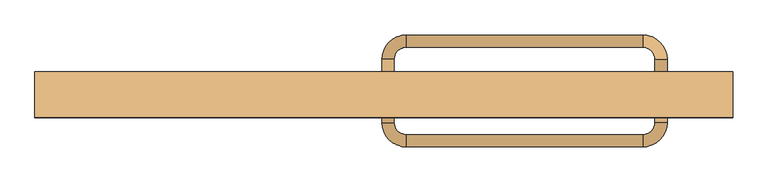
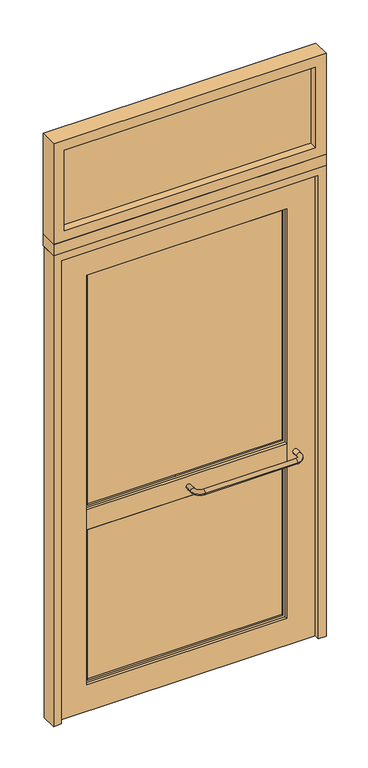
"""IFC4 building model written with IfcOpenShell, lengths in millimetres: door geometry, A3 Puerta batiente exterior VF superior : A3.3 Puerta batiente simple-exterior 115X260."""

from ifc_helpers import new_model, si_unit, point, frame, origin, place, context, project, spatial, polyline, circle_curve, ellipse_curve, trimmed, outline, extrude, source, transform, mapped, element, save
from ifc_brep_helpers import plane_surface, cylinder_surface, revolved_surface, advanced_brep


def door_438542e8(model_context):
    return source(origin(), model_context, "Body", "SolidModel", [
        advanced_brep(
        [(17.0, -11.0, 855.0), (-3.0, -11.0, 855.0), (-3.0, -41.0, 855.0), (17.0, -41.0, 855.0), (37.0, -61.0, 855.0), (37.0, -81.0, 855.0), (427.0, -81.0, 855.0), (427.0, -61.0, 855.0), (447.0, -41.0, 855.0), (467.0, -41.0, 855.0), (447.0, -11.0, 855.0), (467.0, -11.0, 855.0)],
        [
            (0, 1, circle_curve(frame((7.0, -11.0, 855.0), z_axis=(0.0, 1.0, 0.0), x_axis=(-1.0, 0.0, 0.0)), 10.0)),
            (1, 0, circle_curve(frame((7.0, -11.0, 855.0), z_axis=(0.0, 1.0, 0.0), x_axis=(-1.0, 0.0, 0.0)), 10.0)),
            (1, 2),
            (2, 3, circle_curve(frame((7.0, -41.0, 855.0), z_axis=(0.0, 1.0, 0.0), x_axis=(-1.0, 0.0, 0.0)), 10.0)),
            (3, 0),
            (3, 2, circle_curve(frame((7.0, -41.0, 855.0), z_axis=(0.0, 1.0, 0.0), x_axis=(-1.0, 0.0, 0.0)), 10.0)),
            (4, 3, circle_curve(frame((37.0, -41.0, 855.0), z_axis=(0.0, 0.0, -1.0), x_axis=(-1.0, 0.0, 0.0)), 20.0)),
            (2, 5, circle_curve(frame((37.0, -41.0, 855.0), z_axis=(0.0, 0.0, 1.0), x_axis=(-1.0, 0.0, 0.0)), 40.0)),
            (5, 4, circle_curve(frame((37.0, -71.0, 855.0), z_axis=(-1.0, 0.0, 0.0), x_axis=(0.0, -1.0, 0.0)), 10.0)),
            (4, 5, circle_curve(frame((37.0, -71.0, 855.0), z_axis=(-1.0, 0.0, 0.0), x_axis=(0.0, -1.0, 0.0)), 10.0)),
            (5, 6),
            (6, 7, circle_curve(frame((427.0, -71.0, 855.0), z_axis=(-1.0, 0.0, 0.0), x_axis=(0.0, -1.0, 0.0)), 10.0)),
            (7, 4),
            (7, 6, circle_curve(frame((427.0, -71.0, 855.0), z_axis=(-1.0, 0.0, 0.0), x_axis=(0.0, -1.0, 0.0)), 10.0)),
            (8, 7, circle_curve(frame((427.0, -41.0, 855.0), z_axis=(0.0, 0.0, -1.0), x_axis=(0.0, -1.0, 0.0)), 20.0)),
            (6, 9, circle_curve(frame((427.0, -41.0, 855.0), z_axis=(0.0, 0.0, 1.0), x_axis=(0.0, -1.0, 0.0)), 40.0)),
            (9, 8, circle_curve(frame((457.0, -41.0, 855.0), z_axis=(0.0, -1.0, 0.0), x_axis=(1.0, 0.0, 0.0)), 10.0)),
            (8, 9, circle_curve(frame((457.0, -41.0, 855.0), z_axis=(0.0, -1.0, 0.0), x_axis=(1.0, 0.0, 0.0)), 10.0)),
            (10, 11, circle_curve(frame((457.0, -11.0, 855.0), z_axis=(0.0, 1.0, 0.0), x_axis=(1.0, 0.0, 0.0)), 10.0)),
            (11, 10, circle_curve(frame((457.0, -11.0, 855.0), z_axis=(0.0, 1.0, 0.0), x_axis=(1.0, 0.0, 0.0)), 10.0)),
            (9, 11),
            (10, 8),
        ],
        [
            plane_surface(frame((7.0, -11.0, 855.0), z_axis=(0.0, 1.0, 0.0), x_axis=(0.0, 0.0, 1.0))),
            cylinder_surface(frame((7.0, -11.0, 855.0), z_axis=(0.0, 1.0, 0.0), x_axis=(-1.0, 0.0, 0.0)), 10.0),
            revolved_surface(trimmed(ellipse_curve(frame((7.0, -41.0, 855.0), z_axis=(0.0, 1.0, 0.0), x_axis=(-1.0, 0.0, 0.0)), 10.0, 10.0), [point((-3.0, -41.0, 855.0))], [point((17.0, -41.0, 855.0))], True, "CARTESIAN"), (37.0, -41.0, 855.0), (0.0, 0.0, 1.0)),
            revolved_surface(trimmed(ellipse_curve(frame((7.0, -41.0, 855.0), z_axis=(0.0, 1.0, 0.0), x_axis=(-1.0, 0.0, 0.0)), 10.0, 10.0), [point((17.0, -41.0, 855.0))], [point((-3.0, -41.0, 855.0))], True, "CARTESIAN"), (37.0, -41.0, 855.0), (0.0, 0.0, 1.0)),
            cylinder_surface(frame((37.0, -71.0, 855.0), z_axis=(-1.0, 0.0, 0.0), x_axis=(0.0, -1.0, 0.0)), 10.0),
            revolved_surface(trimmed(ellipse_curve(frame((427.0, -71.0, 855.0), z_axis=(-1.0, 0.0, 0.0), x_axis=(0.0, -1.0, 0.0)), 10.0, 10.0), [point((427.0, -81.0, 855.0))], [point((427.0, -61.0, 855.0))], True, "CARTESIAN"), (427.0, -41.0, 855.0), (0.0, 0.0, 1.0)),
            revolved_surface(trimmed(ellipse_curve(frame((427.0, -71.0, 855.0), z_axis=(-1.0, 0.0, 0.0), x_axis=(0.0, -1.0, 0.0)), 10.0, 10.0), [point((427.0, -61.0, 855.0))], [point((427.0, -81.0, 855.0))], True, "CARTESIAN"), (427.0, -41.0, 855.0), (0.0, 0.0, 1.0)),
            plane_surface(frame((457.0, -11.0, 855.0), z_axis=(0.0, 1.0, 0.0), x_axis=(0.0, 0.0, 1.0))),
            cylinder_surface(frame((457.0, -41.0, 855.0), z_axis=(0.0, -1.0, 0.0), x_axis=(1.0, 0.0, 0.0)), 10.0),
        ],
        [
            (0, [[1, 2]]),
            (1, [[-2, 3, 4, 5]]),
            (1, [[-1, -5, 6, -3]]),
            (2, [[7, -4, 8, 9]]),
            (3, [[-8, -6, -7, 10]]),
            (4, [[-9, 11, 12, 13]]),
            (4, [[-10, -13, 14, -11]]),
            (5, [[15, -12, 16, 17]]),
            (6, [[-16, -14, -15, 18]]),
            (7, [[19, 20]]),
            (8, [[-17, 21, -19, 22]]),
            (8, [[-18, -22, -20, -21]]),
        ],
    ),
        advanced_brep(
        [(17.0, 33.0, 855.0), (-3.0, 33.0, 855.0), (17.0, 63.0, 855.0), (-3.0, 63.0, 855.0), (37.0, 83.0, 855.0), (37.0, 103.0, 855.0), (427.0, 83.0, 855.0), (427.0, 103.0, 855.0), (447.0, 63.0, 855.0), (467.0, 63.0, 855.0), (447.0, 33.0, 855.0), (467.0, 33.0, 855.0)],
        [
            (0, 1, circle_curve(frame((7.0, 33.0, 855.0), z_axis=(0.0, -1.0, 0.0), x_axis=(-1.0, 0.0, 0.0)), 10.0)),
            (1, 0, circle_curve(frame((7.0, 33.0, 855.0), z_axis=(0.0, -1.0, 0.0), x_axis=(-1.0, 0.0, 0.0)), 10.0)),
            (0, 2),
            (2, 3, circle_curve(frame((7.0, 63.0, 855.0), z_axis=(0.0, -1.0, 0.0), x_axis=(-1.0, 0.0, 0.0)), 10.0)),
            (3, 1),
            (3, 2, circle_curve(frame((7.0, 63.0, 855.0), z_axis=(0.0, -1.0, 0.0), x_axis=(-1.0, 0.0, 0.0)), 10.0)),
            (4, 5, circle_curve(frame((37.0, 93.0, 855.0), z_axis=(-1.0, 0.0, 0.0), x_axis=(0.0, 1.0, 0.0)), 10.0)),
            (5, 3, circle_curve(frame((37.0, 63.0, 855.0), z_axis=(0.0, 0.0, 1.0), x_axis=(-1.0, 0.0, 0.0)), 40.0)),
            (2, 4, circle_curve(frame((37.0, 63.0, 855.0), z_axis=(0.0, 0.0, -1.0), x_axis=(-1.0, 0.0, 0.0)), 20.0)),
            (5, 4, circle_curve(frame((37.0, 93.0, 855.0), z_axis=(-1.0, 0.0, 0.0), x_axis=(0.0, 1.0, 0.0)), 10.0)),
            (4, 6),
            (6, 7, circle_curve(frame((427.0, 93.0, 855.0), z_axis=(-1.0, 0.0, 0.0), x_axis=(0.0, 1.0, 0.0)), 10.0)),
            (7, 5),
            (7, 6, circle_curve(frame((427.0, 93.0, 855.0), z_axis=(-1.0, 0.0, 0.0), x_axis=(0.0, 1.0, 0.0)), 10.0)),
            (8, 9, circle_curve(frame((457.0, 63.0, 855.0), z_axis=(0.0, 1.0, 0.0), x_axis=(1.0, 0.0, 0.0)), 10.0)),
            (9, 7, circle_curve(frame((427.0, 63.0, 855.0), z_axis=(0.0, 0.0, 1.0), x_axis=(0.0, 1.0, 0.0)), 40.0)),
            (6, 8, circle_curve(frame((427.0, 63.0, 855.0), z_axis=(0.0, 0.0, -1.0), x_axis=(0.0, 1.0, 0.0)), 20.0)),
            (9, 8, circle_curve(frame((457.0, 63.0, 855.0), z_axis=(0.0, 1.0, 0.0), x_axis=(1.0, 0.0, 0.0)), 10.0)),
            (10, 11, circle_curve(frame((457.0, 33.0, 855.0), z_axis=(0.0, -1.0, 0.0), x_axis=(1.0, 0.0, 0.0)), 10.0)),
            (11, 10, circle_curve(frame((457.0, 33.0, 855.0), z_axis=(0.0, -1.0, 0.0), x_axis=(1.0, 0.0, 0.0)), 10.0)),
            (8, 10),
            (11, 9),
        ],
        [
            plane_surface(frame((7.0, 33.0, 855.0), z_axis=(0.0, -1.0, 0.0), x_axis=(0.0, 0.0, 1.0))),
            cylinder_surface(frame((7.0, 33.0, 855.0), z_axis=(0.0, -1.0, 0.0), x_axis=(-1.0, 0.0, 0.0)), 10.0),
            revolved_surface(trimmed(ellipse_curve(frame((7.0, 63.0, 855.0), z_axis=(0.0, 1.0, 0.0), x_axis=(-1.0, 0.0, 0.0)), 10.0, 10.0), [point((-3.0, 63.0, 855.0))], [point((17.0, 63.0, 855.0))], True, "CARTESIAN"), (37.0, 63.0, 855.0), (0.0, 0.0, 1.0)),
            revolved_surface(trimmed(ellipse_curve(frame((7.0, 63.0, 855.0), z_axis=(0.0, 1.0, 0.0), x_axis=(-1.0, 0.0, 0.0)), 10.0, 10.0), [point((17.0, 63.0, 855.0))], [point((-3.0, 63.0, 855.0))], True, "CARTESIAN"), (37.0, 63.0, 855.0), (0.0, 0.0, 1.0)),
            cylinder_surface(frame((37.0, 93.0, 855.0), z_axis=(-1.0, 0.0, 0.0), x_axis=(0.0, 1.0, 0.0)), 10.0),
            revolved_surface(trimmed(ellipse_curve(frame((427.0, 93.0, 855.0), z_axis=(1.0, 0.0, 0.0), x_axis=(0.0, 1.0, 0.0)), 10.0, 10.0), [point((427.0, 103.0, 855.0))], [point((427.0, 83.0, 855.0))], True, "CARTESIAN"), (427.0, 63.0, 855.0), (0.0, 0.0, 1.0)),
            revolved_surface(trimmed(ellipse_curve(frame((427.0, 93.0, 855.0), z_axis=(1.0, 0.0, 0.0), x_axis=(0.0, 1.0, 0.0)), 10.0, 10.0), [point((427.0, 83.0, 855.0))], [point((427.0, 103.0, 855.0))], True, "CARTESIAN"), (427.0, 63.0, 855.0), (0.0, 0.0, 1.0)),
            plane_surface(frame((457.0, 33.0, 855.0), z_axis=(0.0, -1.0, 0.0), x_axis=(0.0, 0.0, 1.0))),
            cylinder_surface(frame((457.0, 63.0, 855.0), z_axis=(0.0, 1.0, 0.0), x_axis=(1.0, 0.0, 0.0)), 10.0),
        ],
        [
            (0, [[1, 2]]),
            (1, [[3, 4, 5, -1]]),
            (1, [[-5, 6, -3, -2]]),
            (2, [[7, 8, -4, 9]]),
            (3, [[10, -9, -6, -8]]),
            (4, [[11, 12, 13, -7]]),
            (4, [[-13, 14, -11, -10]]),
            (5, [[15, 16, -12, 17]]),
            (6, [[18, -17, -14, -16]]),
            (7, [[19, 20]]),
            (8, [[21, -20, 22, -15]]),
            (8, [[-22, -19, -21, -18]]),
        ],
    ),
        extrude(outline(polyline([(575.0, -33.0), (-575.0, -33.0), (-575.0, 42.0), (575.0, 42.0), (575.0, -33.0)])), frame((0.0, 0.0, 2100.0), z_axis=(0.0, 0.0, 1.0), x_axis=(1.0, 0.0, 0.0)), (0.0, 0.0, 1.0), 50.0),
        extrude(outline(polyline([(2100.0, 575.0), (2100.0, -575.0), (0.0, -575.0), (0.0, -542.0), (2067.0, -542.0), (2067.0, 542.0), (0.0, 542.0), (0.0, 575.0), (2100.0, 575.0)])), frame((0.0, -33.0, 0.0), z_axis=(0.0, 1.0, 0.0), x_axis=(0.0, 0.0, 1.0)), (0.0, 0.0, 1.0), 66.0),
        extrude(outline(polyline([(2067.0, -542.0), (0.0, -542.0), (0.0, 542.0), (2067.0, 542.0), (2067.0, -542.0)]), holes=[polyline([(1947.0, -422.0), (1947.0, 422.0), (120.0, 422.0), (120.0, -422.0), (1947.0, -422.0)])]), frame((0.0, -11.0, 0.0), z_axis=(0.0, 1.0, 0.0), x_axis=(0.0, 0.0, 1.0)), (0.0, 0.0, 1.0), 44.0),
        extrude(outline(polyline([(422.0, -11.0), (-422.0, -11.0), (-422.0, 33.0), (422.0, 33.0), (422.0, -11.0)])), frame((0.0, 0.0, 810.0), z_axis=(0.0, 0.0, 1.0), x_axis=(1.0, 0.0, 0.0)), (0.0, 0.0, 1.0), 90.0),
        extrude(outline(polyline([(1947.0, -422.0), (900.0, -422.0), (900.0, 422.0), (1947.0, 422.0), (1947.0, -422.0)]), holes=[polyline([(1937.0, -412.0), (1937.0, 412.0), (910.0, 412.0), (910.0, -412.0), (1937.0, -412.0)])]), frame((0.0, 1.0, 0.0), z_axis=(0.0, 1.0, 0.0), x_axis=(0.0, 0.0, 1.0)), (0.0, 0.0, 1.0), 20.0),
        extrude(outline(polyline([(810.0, -422.0), (120.0, -422.0), (120.0, 422.0), (810.0, 422.0), (810.0, -422.0)]), holes=[polyline([(800.0, -412.0), (800.0, 412.0), (130.0, 412.0), (130.0, -412.0), (800.0, -412.0)])]), frame((0.0, 1.0, 0.0), z_axis=(0.0, 1.0, 0.0), x_axis=(0.0, 0.0, 1.0)), (0.0, 0.0, 1.0), 20.0),
        extrude(outline(polyline([(412.0, 8.0), (-412.0, 8.0), (-412.0, 14.0), (412.0, 14.0), (412.0, 8.0)])), frame((0.0, 0.0, 910.0), z_axis=(0.0, 0.0, 1.0), x_axis=(1.0, 0.0, 0.0)), (0.0, 0.0, 1.0), 1027.0),
        extrude(outline(polyline([(412.0, 8.0), (-412.0, 8.0), (-412.0, 14.0), (412.0, 14.0), (412.0, 8.0)])), frame((0.0, 0.0, 130.0), z_axis=(0.0, 0.0, 1.0), x_axis=(1.0, 0.0, 0.0)), (0.0, 0.0, 1.0), 670.0),
        extrude(outline(polyline([(530.0, 1.5), (-530.0, 1.5), (-530.0, 7.5), (530.0, 7.5), (530.0, 1.5)])), frame((0.0, 0.0, 2195.0), z_axis=(0.0, 0.0, 1.0), x_axis=(1.0, 0.0, 0.0)), (0.0, 0.0, 1.0), 360.0),
        extrude(outline(polyline([(2600.0, -575.0), (2150.0, -575.0), (2150.0, 575.0), (2600.0, 575.0), (2600.0, -575.0)]), holes=[polyline([(2555.0, -530.0), (2555.0, 530.0), (2195.0, 530.0), (2195.0, -530.0), (2555.0, -530.0)])]), frame((0.0, -33.0, 0.0), z_axis=(0.0, 1.0, 0.0), x_axis=(0.0, 0.0, 1.0)), (0.0, 0.0, 1.0), 75.0),
    ])


if __name__ == "__main__":
    model = new_model("IFC4")
    model_context = context("Model", 3, world=origin())
    ifc_project = project(units=[si_unit("LENGTHUNIT", "METRE", prefix="MILLI")], contexts=[model_context])
    site = spatial("IfcSite", under=ifc_project)
    building = spatial("IfcBuilding", under=site)
    placement = place(None, origin())
    door_shape = door_438542e8(model_context)
    element("IfcDoor", 1, ObjectType="A3 Puerta batiente exterior VF superior : A3.3 Puerta batiente simple-exterior 115X260", at=placement, inside=building, context=model_context, shape_type="MappedRepresentation", body=[
        mapped(door_shape, transform((0.0, 0.0, 0.0), x_axis=(1.0, 0.0, 0.0), y_axis=(0.0, 1.0, 0.0), z_axis=(0.0, 0.0, 1.0))),
    ])
    save(model, "model.ifc")
